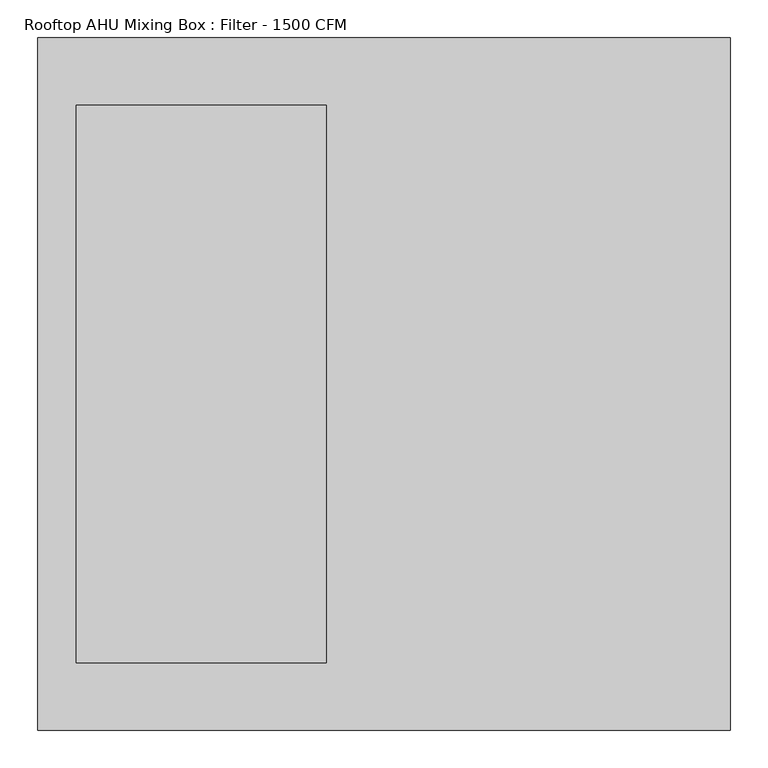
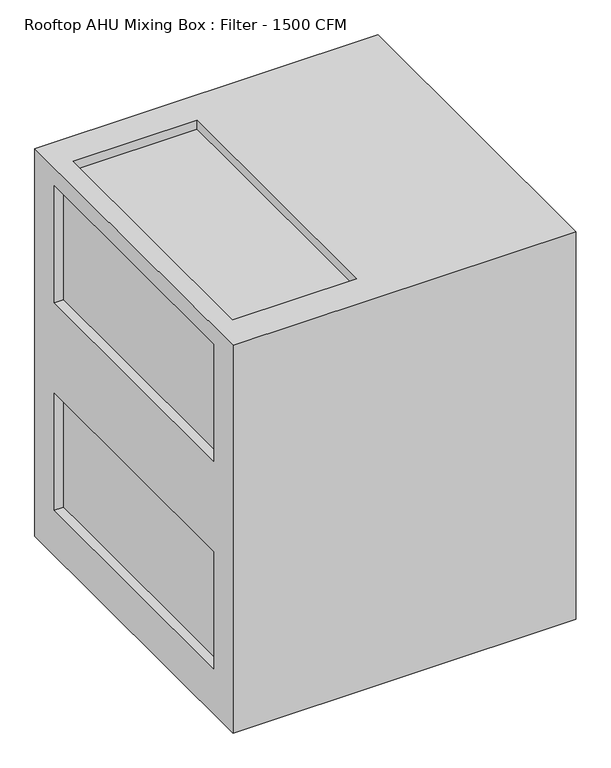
"""IFC4 building model written with IfcOpenShell, lengths in millimetres: proxy geometry, Rooftop AHU Mixing Box : Filter - 1500 CFM."""

from ifc_helpers import new_model, si_unit, origin, place, context, project, spatial, faceted_brep, source, transform, mapped, element, save


def rooftop_ahu_mixing_box_filter_1500_cfm_dea60fe3(model_context):
    return source(origin(), model_context, "Body", "Brep", [
        faceted_brep([(-1088.23125, -161.925, 1092.2), (-173.83125, -161.925, 1092.2), (-173.83125, 752.475, 1092.2), (-1088.23125, 752.475, 1092.2), (-1037.43125, 663.575, 1092.2), (-707.23125, 663.575, 1092.2), (-707.23125, -73.025, 1092.2), (-1037.43125, -73.025, 1092.2), (-1088.23125, -161.925, 0.0), (-1088.23125, 752.475, 0.0), (-173.83125, 752.475, 0.0), (-173.83125, -161.925, 0.0), (-707.23125, -73.025, 0.0), (-707.23125, 663.575, 0.0), (-1037.43125, 663.575, 0.0), (-1037.43125, -73.025, 0.0), (-1088.23125, 663.575, 457.2), (-1088.23125, -73.025, 457.2), (-1088.23125, -73.025, 127.0), (-1088.23125, 663.575, 127.0), (-1088.23125, 663.575, 1041.4), (-1088.23125, -73.025, 1041.4), (-1088.23125, -73.025, 711.2), (-1088.23125, 663.575, 711.2), (-707.23125, -73.025, 25.4), (-1037.43125, -73.025, 25.4), (-1037.43125, 663.575, 25.4), (-707.23125, 663.575, 25.4), (-1062.83125, 663.575, 457.2), (-1062.83125, 663.575, 127.0), (-1062.83125, -73.025, 127.0), (-1062.83125, -73.025, 457.2), (-1062.83125, 663.575, 1041.4), (-1062.83125, 663.575, 711.2), (-1062.83125, -73.025, 711.2), (-1062.83125, -73.025, 1041.4), (-707.23125, 663.575, 1066.8), (-1037.43125, 663.575, 1066.8), (-1037.43125, -73.025, 1066.8), (-707.23125, -73.025, 1066.8)], [[[0, 1, 2, 3], [4, 5, 6, 7]], [[8, 9, 10, 11], [12, 13, 14, 15]], [[1, 0, 8, 11]], [[2, 1, 11, 10]], [[3, 2, 10, 9]], [[0, 3, 9, 8], [16, 17, 18, 19], [20, 21, 22, 23]], [[24, 25, 26, 27]], [[24, 27, 13, 12]], [[27, 26, 14, 13]], [[26, 25, 15, 14]], [[25, 24, 12, 15]], [[28, 29, 30, 31]], [[28, 31, 17, 16]], [[31, 30, 18, 17]], [[30, 29, 19, 18]], [[29, 28, 16, 19]], [[32, 33, 34, 35]], [[32, 35, 21, 20]], [[35, 34, 22, 21]], [[34, 33, 23, 22]], [[33, 32, 20, 23]], [[36, 37, 38, 39]], [[37, 36, 5, 4]], [[38, 37, 4, 7]], [[39, 38, 7, 6]], [[36, 39, 6, 5]]]),
    ])


if __name__ == "__main__":
    model = new_model("IFC4")
    model_context = context("Model", 3, world=origin())
    ifc_project = project(units=[si_unit("LENGTHUNIT", "METRE", prefix="MILLI")], contexts=[model_context])
    site = spatial("IfcSite", under=ifc_project)
    building = spatial("IfcBuilding", under=site)
    placement = place(None, origin())
    rooftop_ahu_mixing_box_filter_1500_cfm_shape = rooftop_ahu_mixing_box_filter_1500_cfm_dea60fe3(model_context)
    element("IfcBuildingElementProxy", 1, Name="Rooftop AHU Mixing Box : Filter - 1500 CFM", ObjectType="Rooftop AHU Mixing Box : Filter - 1500 CFM", at=placement, inside=building, context=model_context, shape_type="MappedRepresentation", body=[
        mapped(rooftop_ahu_mixing_box_filter_1500_cfm_shape, transform((0.0, 0.0, 0.0), x_axis=(1.0, 0.0, 0.0), y_axis=(0.0, 1.0, 0.0), z_axis=(0.0, 0.0, 1.0))),
    ])
    save(model, "model.ifc")
